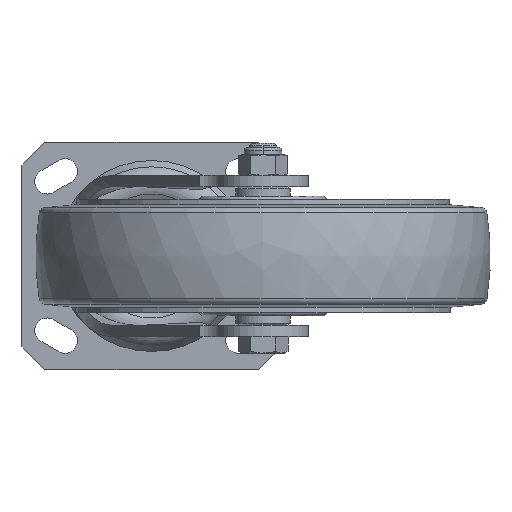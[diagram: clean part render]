
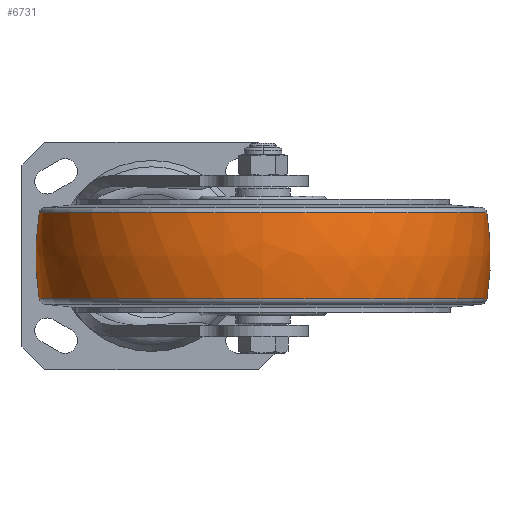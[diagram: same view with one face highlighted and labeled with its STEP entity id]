
A CAD part, front view. The second image highlights one B-rep face of the part: STEP entity #6731.
In plain terms, the highlighted free-form (B-spline) face has degree [3, 3] with [7, 4] control points.
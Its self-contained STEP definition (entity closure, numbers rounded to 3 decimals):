
#5899=CARTESIAN_POINT('',(0.,-20.094,0.));
#5900=DIRECTION('',(0.,0.,1.));
#5901=DIRECTION('',(0.158,0.988,0.));
#5902=AXIS2_PLACEMENT_3D('',#5899,#5900,#5901);
#5904=CARTESIAN_POINT('',(0.,20.094,0.));
#5905=DIRECTION('',(0.,0.,-1.));
#5906=DIRECTION('',(0.158,-0.988,0.));
#5907=AXIS2_PLACEMENT_3D('',#5904,#5905,#5906);
#5909=CARTESIAN_POINT('',(18.914,0.,0.));
#5910=DIRECTION('',(-1.,0.,0.));
#5911=DIRECTION('',(0.,1.,0.));
#5912=AXIS2_PLACEMENT_3D('',#5909,#5910,#5911);
#5934=CARTESIAN_POINT('',(-18.783,0.,0.));
#5935=DIRECTION('',(-1.,0.,0.));
#5936=DIRECTION('',(0.,1.,0.));
#5937=AXIS2_PLACEMENT_3D('',#5934,#5935,#5936);
#6195=CARTESIAN_POINT('',(18.914,98.451,
0.));
#6196=VERTEX_POINT('',#6195);
#6197=CARTESIAN_POINT('',(-18.783,98.471,
0.));
#6198=VERTEX_POINT('',#6197);
#6259=CARTESIAN_POINT('',(18.914,-98.451,
0.));
#6260=VERTEX_POINT('',#6259);
#6261=CARTESIAN_POINT('',(-18.783,-98.471,
0.));
#6262=VERTEX_POINT('',#6261);
#6693=CARTESIAN_POINT('',(-19.531,-98.157,
6.175));
#6694=CARTESIAN_POINT('',(-6.524,-100.297,
6.31));
#6695=CARTESIAN_POINT('',(6.657,-100.29,6.31));
#6696=CARTESIAN_POINT('',(19.661,-98.135,6.174));
#6697=CARTESIAN_POINT('',(-19.531,-101.957,
-54.23));
#6698=CARTESIAN_POINT('',(-6.524,-104.18,
-55.412));
#6699=CARTESIAN_POINT('',(6.657,-104.173,
-55.408));
#6700=CARTESIAN_POINT('',(19.661,-101.934,
-54.218));
#6701=CARTESIAN_POINT('',(-19.531,-60.525,
-98.351));
#6702=CARTESIAN_POINT('',(-6.524,-61.845,
-100.495));
#6703=CARTESIAN_POINT('',(6.657,-61.84,
-100.488));
#6704=CARTESIAN_POINT('',(19.661,-60.512,
-98.329));
#6705=CARTESIAN_POINT('',(-19.531,0.,
-98.351));
#6706=CARTESIAN_POINT('',(-6.524,0.,
-100.495));
#6707=CARTESIAN_POINT('',(6.657,0.,
-100.488));
#6708=CARTESIAN_POINT('',(19.661,0.,
-98.329));
#6709=CARTESIAN_POINT('',(-19.531,60.525,
-98.351));
#6710=CARTESIAN_POINT('',(-6.524,61.845,
-100.495));
#6711=CARTESIAN_POINT('',(6.657,61.84,-100.488));
#6712=CARTESIAN_POINT('',(19.661,60.512,-98.329));
#6713=CARTESIAN_POINT('',(-19.531,101.957,
-54.23));
#6714=CARTESIAN_POINT('',(-6.524,104.18,
-55.412));
#6715=CARTESIAN_POINT('',(6.657,104.173,-55.408));
#6716=CARTESIAN_POINT('',(19.661,101.934,-54.218));
#6717=CARTESIAN_POINT('',(-19.531,98.157,6.175));
#6718=CARTESIAN_POINT('',(-6.524,100.297,6.31));
#6719=CARTESIAN_POINT('',(6.657,100.29,6.31));
#6720=CARTESIAN_POINT('',(19.661,98.135,6.174));
#6721=(BOUNDED_SURFACE()B_SPLINE_SURFACE(3,3,((#6693,#6694,#6695,#6696),(#6697,
#6698,#6699,#6700),(#6701,#6702,#6703,#6704),(#6705,#6706,#6707,#6708),(#6709,
#6710,#6711,#6712),(#6713,#6714,#6715,#6716),(#6717,#6718,#6719,#6720)),
.UNSPECIFIED.,.F.,.F.,.F.)B_SPLINE_SURFACE_WITH_KNOTS((4,3,4),(4,4),(0.,1.,
2.),(0.,1.),.UNSPECIFIED.)GEOMETRIC_REPRESENTATION_ITEM()RATIONAL_B_SPLINE_SURFACE(((1.195,1.185,1.185,1.195),(
0.944,0.935,0.935,0.944),(
0.944,0.935,0.935,0.944),(
1.195,1.185,1.185,1.195),(
0.944,0.935,0.935,0.944),(
0.944,0.935,0.935,0.944),(
1.195,1.185,1.185,1.195)))REPRESENTATION_ITEM('')SURFACE());
#6723=ORIENTED_EDGE('',*,*,#6722,.T.);
#6725=ORIENTED_EDGE('',*,*,#6724,.T.);
#6727=ORIENTED_EDGE('',*,*,#6726,.F.);
#6728=ORIENTED_EDGE('',*,*,#6686,.F.);
#6729=EDGE_LOOP('',(#6723,#6725,#6727,#6728));
#6730=FACE_OUTER_BOUND('',#6729,.F.);
#5903=CIRCLE('',#5902,120.044);
#5908=CIRCLE('',#5907,120.044);
#5913=CIRCLE('',#5912,98.451);
#5938=CIRCLE('',#5937,98.471);
#6686=EDGE_CURVE('',#6196,#6260,#5913,.T.);
#6722=EDGE_CURVE('',#6196,#6198,#5903,.T.);
#6724=EDGE_CURVE('',#6198,#6262,#5938,.T.);
#6726=EDGE_CURVE('',#6260,#6262,#5908,.T.);
#6731=ADVANCED_FACE('',(#6730),#6721,.T.);
